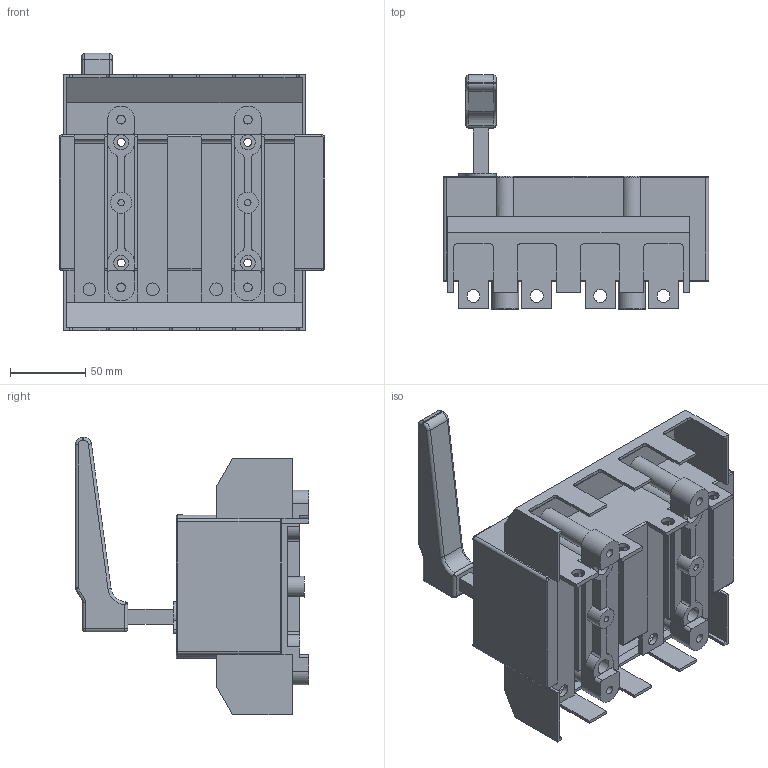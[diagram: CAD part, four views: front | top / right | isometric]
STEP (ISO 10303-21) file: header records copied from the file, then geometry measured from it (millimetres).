
FILE_DESCRIPTION(/* description */ (''),/* implementation_level */ '2;1');
FILE_NAME(/* name */ 'RA250 P3 NA-R z oslona zaciskow.stp',/* time_stamp */ '2021-08-18T08:01:50+02:00',/* author */ (''),/* organization */ (''),/* preprocessor_version */ 'ST-DEVELOPER v18.1',/* originating_system */ 'SIEMENS PLM Software NX 1965',/* authorisation */ '');
FILE_SCHEMA (('AUTOMOTIVE_DESIGN { 1 0 10303 214 3 1 1 1 }'));
Length unit declared in the file: millimetre
Products named in the file (1): RA250 P3 NA-R z oslona zaciskow_stp
Bounding box: 176 x 155 x 183.9 mm (x, y, z)
Volume: 1255820.2 mm3; surface area: 169558.9 mm2
Topology: 1 solids, 1 shells, 362 faces, 1015 edges, 648 vertices
Faces by surface type: plane 186, cylinder 150, torus 15, sphere 6, bspline 5
Full cylindrical faces by diameter (mm): 4.3 x2, 5.3 x4, 5.8 x4, 8.5 x8, 10 x12, 13 x4, 14 x2
Entity records: 11466 total; most frequent: CARTESIAN_POINT 2133, DIRECTION 1975, ORIENTED_EDGE 1898, EDGE_CURVE 949, AXIS2_PLACEMENT_3D 690, VERTEX_POINT 624, LINE 595, VECTOR 595
